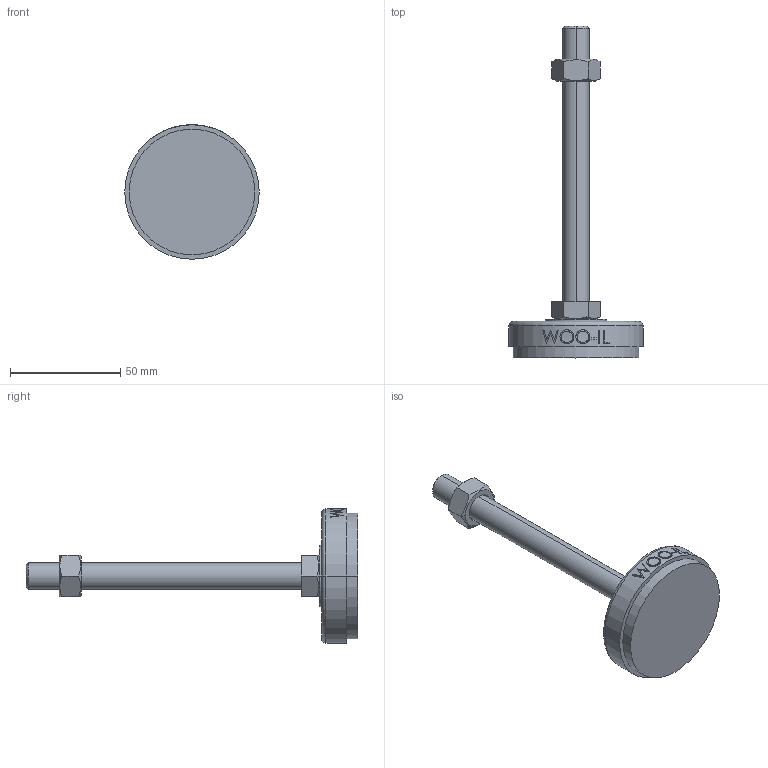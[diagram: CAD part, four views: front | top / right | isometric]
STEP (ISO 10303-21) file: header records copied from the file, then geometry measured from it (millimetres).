
FILE_DESCRIPTION (( 'STEP AP214' ), '1' );
FILE_NAME ('NS61-M12-125.step', '2021-01-11T05:44:49', ( '' ), ( '' ), 'SwSTEP 2.0', 'SolidWorks 2019', '' );
FILE_SCHEMA (( 'AUTOMOTIVE_DESIGN' ));
Length unit declared in the file: millimetre
Products named in the file (2): NS61-M12-125
Bounding box: 61 x 150.5 x 61 mm (x, y, z)
Volume: 65355.3 mm3; surface area: 16059.5 mm2
Topology: 3 solids, 3 shells, 96 faces, 223 edges, 144 vertices
Faces by surface type: plane 48, cylinder 18, bspline 16, cone 12, torus 2
Entity records: 4252 total; most frequent: CARTESIAN_POINT 2127, ORIENTED_EDGE 446, DIRECTION 381, EDGE_CURVE 223, VERTEX_POINT 144, AXIS2_PLACEMENT_3D 142, EDGE_LOOP 109, LINE 97
